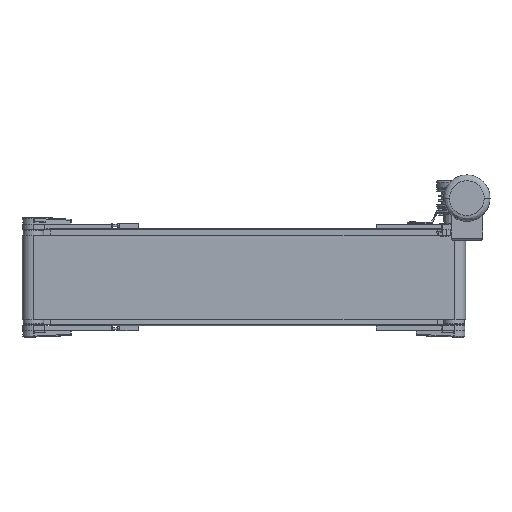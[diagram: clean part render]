
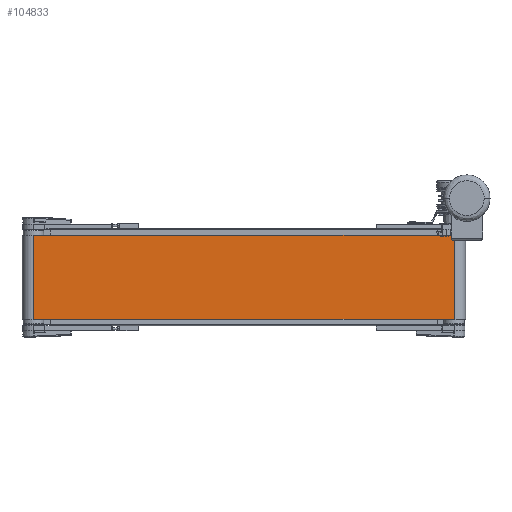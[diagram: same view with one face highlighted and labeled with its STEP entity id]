
A CAD part, front view. The second image highlights one B-rep face of the part: STEP entity #104833.
In plain terms, the highlighted planar face has unit normal (0, -1, 0).
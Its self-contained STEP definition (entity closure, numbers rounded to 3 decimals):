
#3996 = VECTOR ( 'NONE', #45862, 1000. ) ;
#10635 = CARTESIAN_POINT ( 'NONE',  ( -500., -27., 100. ) ) ;
#12178 = ORIENTED_EDGE ( 'NONE', *, *, #76568, .F. ) ;
#22285 = DIRECTION ( 'NONE',  ( 1., 0., 0. ) ) ;
#27736 = LINE ( 'NONE', #76931, #3996 ) ;
#34486 = FACE_OUTER_BOUND ( 'NONE', #107969, .T. ) ;
#42914 = ORIENTED_EDGE ( 'NONE', *, *, #98003, .F. ) ;
#45862 = DIRECTION ( 'NONE',  ( 0., 0., -1. ) ) ;
#47600 = CARTESIAN_POINT ( 'NONE',  ( 500., -27., 100. ) ) ;
#52092 = CARTESIAN_POINT ( 'NONE',  ( -500., -27., -100. ) ) ;
#53271 = CARTESIAN_POINT ( 'NONE',  ( -500., -27., 100. ) ) ;
#59196 = LINE ( 'NONE', #10635, #99600 ) ;
#59219 = VERTEX_POINT ( 'NONE', #52092 ) ;
#62058 = LINE ( 'NONE', #82100, #82236 ) ;
#63009 = PLANE ( 'NONE',  #64685 ) ;
#63793 = LINE ( 'NONE', #103277, #85103 ) ;
#64685 = AXIS2_PLACEMENT_3D ( 'NONE', #53271, #83053, #71449 ) ;
#67987 = CARTESIAN_POINT ( 'NONE',  ( 500., -27., -100. ) ) ;
#70881 = ORIENTED_EDGE ( 'NONE', *, *, #102490, .T. ) ;
#71449 = DIRECTION ( 'NONE',  ( 0., 0., 1. ) ) ;
#76568 = EDGE_CURVE ( 'NONE', #116245, #121202, #59196, .T. ) ;
#76931 = CARTESIAN_POINT ( 'NONE',  ( 500., -27., 100. ) ) ;
#82100 = CARTESIAN_POINT ( 'NONE',  ( -500., -27., 100. ) ) ;
#82236 = VECTOR ( 'NONE', #108216, 1000. ) ;
#83053 = DIRECTION ( 'NONE',  ( 0., 1., 0. ) ) ;
#85103 = VECTOR ( 'NONE', #122079, 1000. ) ;
#87837 = ORIENTED_EDGE ( 'NONE', *, *, #88303, .T. ) ;
#88303 = EDGE_CURVE ( 'NONE', #116245, #59219, #62058, .T. ) ;
#98003 = EDGE_CURVE ( 'NONE', #121202, #106140, #27736, .T. ) ;
#99600 = VECTOR ( 'NONE', #22285, 1000. ) ;
#102490 = EDGE_CURVE ( 'NONE', #59219, #106140, #63793, .T. ) ;
#103277 = CARTESIAN_POINT ( 'NONE',  ( -500., -27., -100. ) ) ;
#103870 = CARTESIAN_POINT ( 'NONE',  ( -500., -27., 100. ) ) ;
#104833 = ADVANCED_FACE ( 'NONE', ( #34486 ), #63009, .F. ) ;
#106140 = VERTEX_POINT ( 'NONE', #67987 ) ;
#107969 = EDGE_LOOP ( 'NONE', ( #70881, #42914, #12178, #87837 ) ) ;
#108216 = DIRECTION ( 'NONE',  ( 0., 0., -1. ) ) ;
#116245 = VERTEX_POINT ( 'NONE', #103870 ) ;
#121202 = VERTEX_POINT ( 'NONE', #47600 ) ;
#122079 = DIRECTION ( 'NONE',  ( 1., 0., 0. ) ) ;
